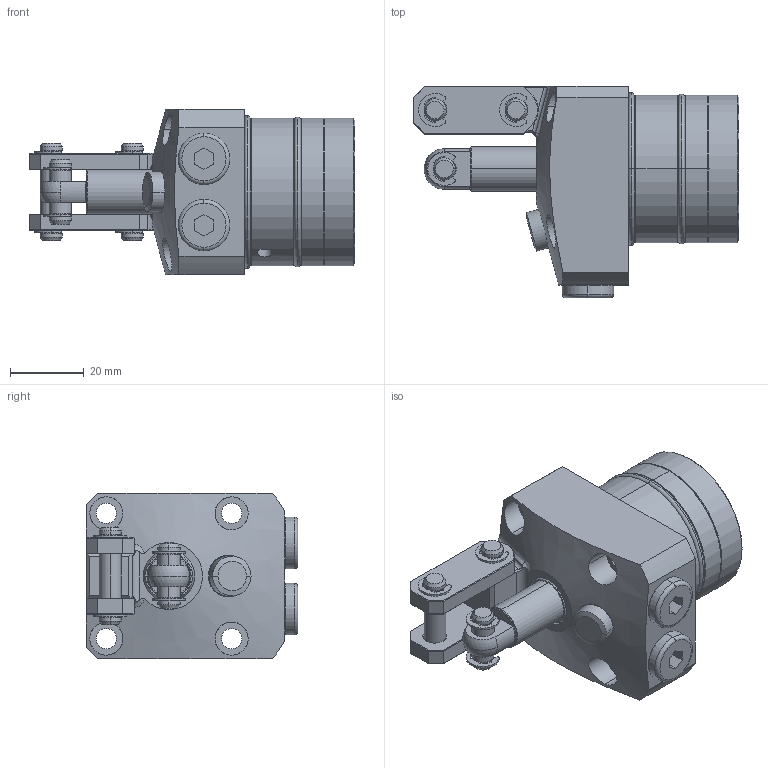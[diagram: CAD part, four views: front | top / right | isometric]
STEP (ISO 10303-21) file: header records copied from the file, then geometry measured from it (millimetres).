
FILE_DESCRIPTION(/* description */ (''),/* implementation_level */ '2;1');
FILE_NAME(/* name */ 'KTPW40-FH.stp',/* time_stamp */ '2022-11-19T16:30:23+08:00',/* author */ (''),/* organization */ (''),/* preprocessor_version */ 'ST-DEVELOPER v16.7',/* originating_system */ 'SIEMENS PLM Software NX 12.0',/* authorisation */ '');
FILE_SCHEMA (('AP203_CONFIGURATION_CONTROLLED_3D_DESIGN_OF_MECHANICAL_PARTS_AND_ASSEMBLIES_MIM_LF { 1 0 10303 403 2 1 2}'));
Length unit declared in the file: millimetre
Products named in the file (11): KTPW40-FH-03; KTPW40-FH-05; KTPW40-FH-01; KTPW40-FH-010; KTPW40-FH-07; KTPW40-FH-06; KTPW40-FH-04; KTPW40-FH-02; KTPW40-FH-08; KTPW40-FH-09; KTPC40-FH_stp
Assembly tree (19 placements, depth 2):
  KTPC40-FH_stp
    KTPW40-FH-09
    KTPW40-FH-08  x6
    KTPW40-FH-02
    KTPW40-FH-04  x2
    KTPW40-FH-06
    KTPW40-FH-07  x2
    KTPW40-FH-010  x2
    KTPW40-FH-01
    KTPW40-FH-05  x2
    KTPW40-FH-03
Bounding box: 88.5 x 57.5 x 45 mm (x, y, z)
Volume: 96710.9 mm3; surface area: 28576.3 mm2
Topology: 21 solids, 21 shells, 660 faces, 1523 edges, 941 vertices
Faces by surface type: cylinder 263, plane 195, torus 114, cone 78, bspline 8, sphere 2
Full cylindrical faces by diameter (mm): 40 x1
Entity records: 12829 total; most frequent: CARTESIAN_POINT 2671, DIRECTION 2006, ORIENTED_EDGE 1656, AXIS2_PLACEMENT_3D 847, EDGE_CURVE 828, VERTEX_POINT 502, CIRCLE 455, EDGE_LOOP 434
